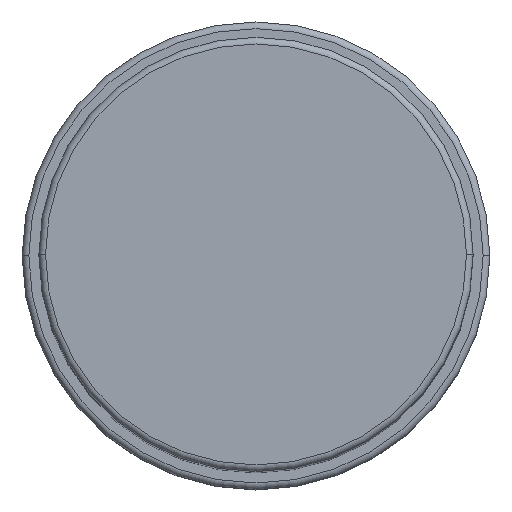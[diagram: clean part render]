
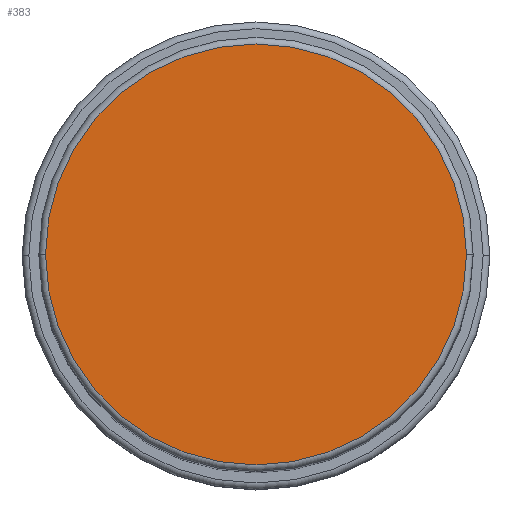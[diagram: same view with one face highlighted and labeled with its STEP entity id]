
A CAD part, top view. The second image highlights one B-rep face of the part: STEP entity #383.
In plain terms, the highlighted planar face has unit normal (0, 0, 1).
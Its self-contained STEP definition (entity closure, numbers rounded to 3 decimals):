
#11 = DIRECTION ( 'NONE',  ( 1., 0., 0. ) ) ;
#262 = DIRECTION ( 'NONE',  ( 0., 0., 1. ) ) ;
#316 = CARTESIAN_POINT ( 'NONE',  ( 31.5, 0., 133. ) ) ;
#383 = ADVANCED_FACE ( 'NONE', ( #1494 ), #707, .T. ) ;
#402 = AXIS2_PLACEMENT_3D ( 'NONE', #523, #262, #11 ) ;
#439 = DIRECTION ( 'NONE',  ( 1., 0., 0. ) ) ;
#476 = CIRCLE ( 'NONE', #402, 31.5 ) ;
#503 = ORIENTED_EDGE ( 'NONE', *, *, #544, .T. ) ;
#523 = CARTESIAN_POINT ( 'NONE',  ( 0., 0., 133. ) ) ;
#544 = EDGE_CURVE ( 'NONE', #1586, #861, #999, .T. ) ;
#667 = AXIS2_PLACEMENT_3D ( 'NONE', #832, #701, #439 ) ;
#701 = DIRECTION ( 'NONE',  ( 0., 0., 1. ) ) ;
#707 = PLANE ( 'NONE',  #667 ) ;
#721 = DIRECTION ( 'NONE',  ( 0., 0., 1. ) ) ;
#760 = EDGE_LOOP ( 'NONE', ( #503, #1274 ) ) ;
#832 = CARTESIAN_POINT ( 'NONE',  ( 0., 0., 133. ) ) ;
#861 = VERTEX_POINT ( 'NONE', #883 ) ;
#866 = DIRECTION ( 'NONE',  ( 1., 0., 0. ) ) ;
#883 = CARTESIAN_POINT ( 'NONE',  ( -31.5, 0., 133. ) ) ;
#933 = AXIS2_PLACEMENT_3D ( 'NONE', #1481, #721, #866 ) ;
#999 = CIRCLE ( 'NONE', #933, 31.5 ) ;
#1274 = ORIENTED_EDGE ( 'NONE', *, *, #1395, .T. ) ;
#1395 = EDGE_CURVE ( 'NONE', #861, #1586, #476, .T. ) ;
#1481 = CARTESIAN_POINT ( 'NONE',  ( 0., 0., 133. ) ) ;
#1494 = FACE_OUTER_BOUND ( 'NONE', #760, .T. ) ;
#1586 = VERTEX_POINT ( 'NONE', #316 ) ;
